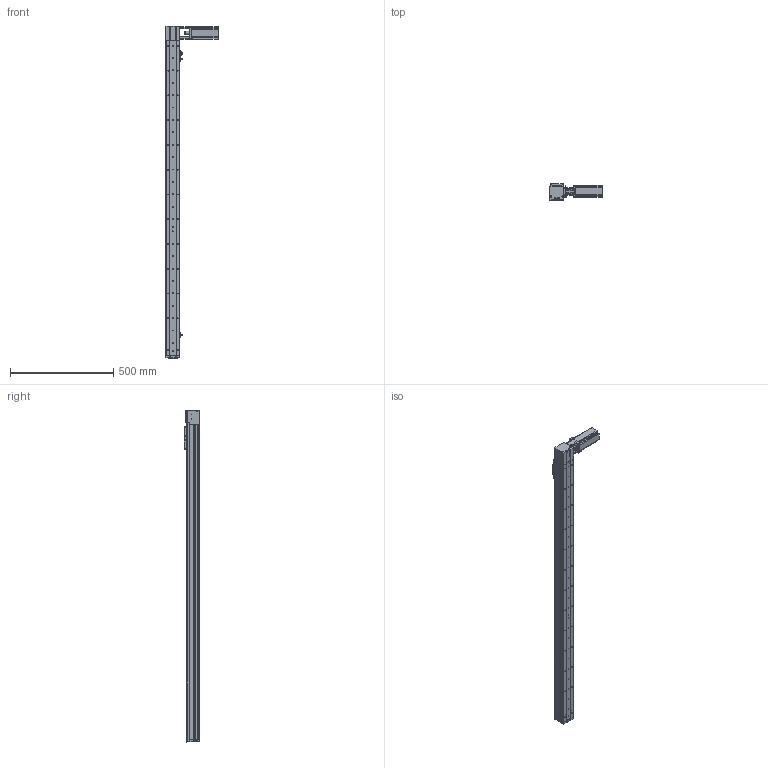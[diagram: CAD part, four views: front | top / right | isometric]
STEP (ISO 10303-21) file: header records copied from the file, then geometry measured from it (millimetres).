
FILE_DESCRIPTION (( 'STEP AP214' ), '1' );
FILE_NAME ('KSD68BS-S1350-MRT-CR.STEP', '2019-11-07T06:53:12', ( '微软用户' ), ( '微软中国' ), 'SwSTEP 2.0', 'SolidWorks 2014', '' );
FILE_SCHEMA (( 'AUTOMOTIVE_DESIGN' ));
Length unit declared in the file: millimetre
Products named in the file (13): 台达ECMA－C20604AS伺服电机（400W); KSD68BS 1350行程底板全封闭; KSD68BS-S1350-MRT-CR; 100遵鎮湛假蚾啣1; KSD68BS 1350行程盖板全封闭; 68遵裔啣揤啣1; 68宽单导轨全封闭丝杆传动安装板1防护罩; KSD68BS 1350行程侧板全封闭; 68宽单导轨全封闭同步带端板; 68单导轨全封闭同步带电机座左; 68单导轨全封闭同步带安装板; 感应片68宽全封闭; U倰嫖萇EEㄜSX672
Assembly tree (16 placements, depth 2):
  KSD68BS-S1350-MRT-CR
    KSD68BS 1350行程底板全封闭
    台达ECMA－C20604AS伺服电机（400W)
    U倰嫖萇EEㄜSX672  x3
    感应片68宽全封闭
    68单导轨全封闭同步带安装板
    68单导轨全封闭同步带电机座左
    68宽单导轨全封闭同步带端板
    KSD68BS 1350行程侧板全封闭  x2
    68宽单导轨全封闭丝杆传动安装板1防护罩
    68遵裔啣揤啣1  x2
    KSD68BS 1350行程盖板全封闭
    100遵鎮湛假蚾啣1
Bounding box: 252.7 x 77 x 1608.1 mm (x, y, z)
Volume: 2956360.1 mm3; surface area: 1156396.5 mm2
Topology: 17 solids, 17 shells, 1515 faces, 4348 edges, 2770 vertices
Faces by surface type: cylinder 733, plane 602, cone 180
Entity records: 49002 total; most frequent: CARTESIAN_POINT 8495, DIRECTION 7235, ORIENTED_EDGE 6924, EDGE_CURVE 3462, AXIS2_PLACEMENT_3D 2634, VERTEX_POINT 2268, LINE 1967, VECTOR 1967
